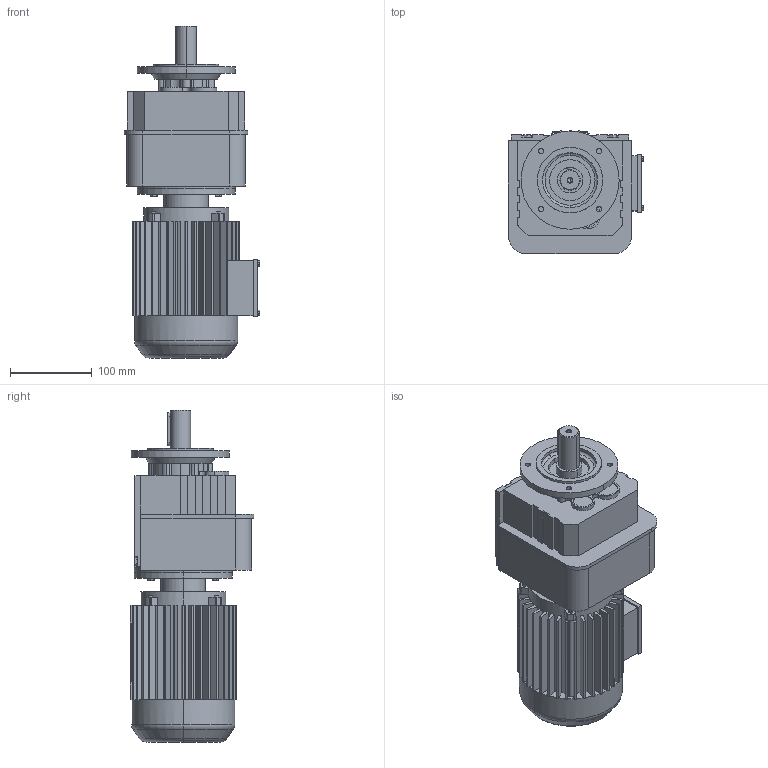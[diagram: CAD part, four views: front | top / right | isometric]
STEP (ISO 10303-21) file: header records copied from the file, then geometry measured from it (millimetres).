
FILE_DESCRIPTION(('Open CASCADE Model'),'2;1');
FILE_NAME('Open CASCADE Shape Model','2021-07-13T14:02:25',('Author'),( 'Open CASCADE'),'Open CASCADE STEP processor 6.3','Open CASCADE 6.3' ,'Unknown');
FILE_SCHEMA(('AUTOMOTIVE_DESIGN_CC2 { 1 2 10303 214 -1 1 5 4 }'));
Length unit declared in the file: millimetre
Products named in the file (3): 1_RF27-Y63S-120; RF07‵27_27_120.step; 萇儂_120_Y63S.step
Assembly tree (2 placements, depth 2):
  1_RF27-Y63S-120
    RF07‵27_27_120.step
    萇儂_120_Y63S.step
Bounding box: 165.5 x 151.6 x 406 mm (x, y, z)
Volume: 4579240.9 mm3; surface area: 362529.3 mm2
Topology: 2 solids, 2 shells, 687 faces, 1821 edges, 1174 vertices
Faces by surface type: plane 479, cylinder 192, cone 10, torus 6
Entity records: 45764 total; most frequent: CARTESIAN_POINT 11047, DIRECTION 6064, ORIENTED_EDGE 3638, PCURVE 3638, DEFINITIONAL_REPRESENTATION 3638, LINE 3272, VECTOR 3272, EDGE_CURVE 1819
